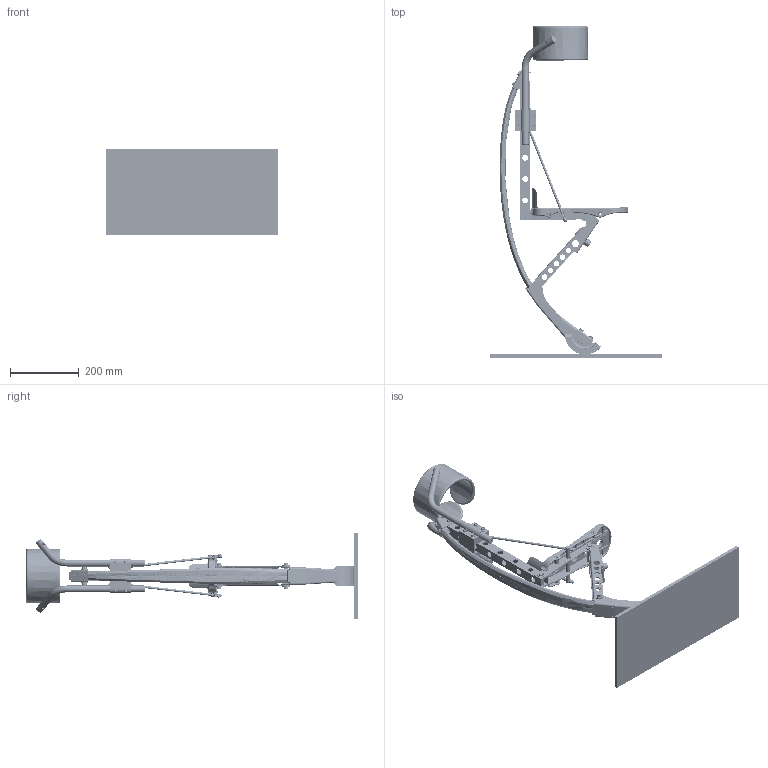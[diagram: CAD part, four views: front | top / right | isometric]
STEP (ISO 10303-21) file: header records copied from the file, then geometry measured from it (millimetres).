
FILE_DESCRIPTION (( 'STEP AP214' ), '1' );
FILE_NAME ('Poweriser Pied Droit.STEP', '2011-07-04T14:04:41', ( '' ), ( '' ), 'SwSTEP 2.0', 'SolidWorks 2011', '' );
FILE_SCHEMA (( 'AUTOMOTIVE_DESIGN' ));
Length unit declared in the file: millimetre
Products named in the file (62): 01_Lame Ressort; Vis H M6-30x18_ISO 4015 - M6 x 30 x 18-C; Chape Basse; Vis H M8-45_ISO 4015 - M8 x 45 x 45-C; 02_Roulement L33; Bague Extérieure L33; Bague Intérieure L33; Rondelle Grower W 6; Vis H M6-30_ISO 4015 - M6 x 30 x 18-N; Rondelle Plate Z 6; Chape Haute; Gaine Protection Lame Ressort; Lame Ressort; Guide lame ressort; 01_Repose-Pied; Countersunk Flat Head Cross Recess Screw_ISO_ISO 10642 - M4 x 12 --- 12C; Repose Pied_Default; Maintien Genou; 02_Tube Coudé; Bouchon; Tube Coudé; Ecrou Nilstop H6 série fine - Noir_ISO 10511-M6-C; Vis CHC M6-85_ISO 4762 M6 x 60 --- 24C; Rondelle Plate Z 6 - Noire; Bride Extérieure; Gaine Protection Tirant; Ecrou borgne H6; hex nut jam_am_Ecrou H6; Tirant; Circlips Extérieur 12x1; Axe; Ecrou Nilstop H6 série fine_ISO 10511-M6-C; Vis H M6-40_ISO 4015 - M6 x 40 x 40-C; Bride Intérieure; Ecrou Nilstop H8_ISO 7040-M8-C; Vis H M8-50_ISO 4015 - M8 x 50 x 50-C; Entretoise; Support Repose Pied; Poutre Verticale; 01_Levier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
Assembly tree (133 placements, depth 4):
  Poweriser Pied Droit
    Guide lame ressort
    01_Lame Ressort
      Rondelle Grower W 6  x4
      Vis H M6-30_ISO 4015 - M6 x 30 x 18-N  x2
      Gaine Protection Lame Ressort
      Chape Basse
      Rondelle Plate Z 8  x4
      Ecrou Nilstop H6 série fine_ISO 10511-M6-C  x4
      Ecrou Nilstop H8 série fine_ISO 10511-M8-C  x2
      Chape Haute
      02_Roulement L33
        Rondelle Spéciale ep1,5  x2
        Bague Extérieure L33
        Bague Intérieure L33
      Vis H M6-30x18_ISO 4015 - M6 x 30 x 18-C  x2
      Rondelle Plate Z 6  x4
      Vis H M8-50_ISO 4015 - M8 x 50 x 50-C
      Lame Ressort
      Vis H M8-45_ISO 4015 - M8 x 45 x 45-C
    01_Repose-Pied
      hex nut jam_am_Ecrou H6  x10
      Circlips Extérieur 12x1  x2
      Support Repose Pied
      Bride Extérieure  x2
      Vis H M6-40_ISO 4015 - M6 x 40 x 40-C  x2
      Countersunk Flat Head Cross Recess Screw_ISO_ISO 10642 - M4 x 12 --- 12C  x6
      Rondelle Plate Z 6 - Noire  x8
      Ecrou Nilstop H6 série fine - Noir_ISO 10511-M6-C  x4
      Gaine Protection Tirant  x2
      Ecrou borgne H6  x2
      Axe
      02_Tube Coudé  x2
        Bouchon
        Tube Coudé
      Tirant  x2
      Vis H M8-50_ISO 4015 - M8 x 50 x 50-C
      Poutre Verticale
      Vis CHC M6-85_ISO 4762 M6 x 60 --- 24C  x4
      Rondelle Plate Z 8  x2
      Ecrou Nilstop H6 série fine_ISO 10511-M6-C  x2
      Repose Pied_Default
      Ecrou Nilstop H8_ISO 7040-M8-C
      Maintien Genou
      Bride Intérieure  x2
      Entretoise
    01_Levier
      Rondelle Plate Z 8  x8
      Tampon Caoutchouc_Default
      Vis H M8-70_Vis H M8 x 70  x2
      Ecrou Nilstop H6_Ecrou Nilstop H6
      Ecrou Nilstop H8 série fine_ISO 10511-M8-C  x2
      Levier_Default
      02_Roulement L53  x2
        Rondelle Spéciale ep1,5
        Bague Intérieure L53_Default
        Bague Extérieure L25_Default
      Protection Levier
      Renfort Levier_Default
    01_Sabot
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Bounding box: 500 x 963.65 x 250 mm (x, y, z)
Volume: 3082125.1 mm3; surface area: 1234321.1 mm2
Topology: 142 solids, 142 shells, 10668 faces, 26045 edges, 16979 vertices
Faces by surface type: plane 8500, cylinder 1101, cone 586, bspline 362, torus 115, sphere 4
Entity records: 404273 total; most frequent: CARTESIAN_POINT 91448, ORIENTED_EDGE 46348, DIRECTION 41527, EDGE_CURVE 23174, VECTOR 19599, LINE 19599, VERTEX_POINT 15274, EDGE_LOOP 11014
